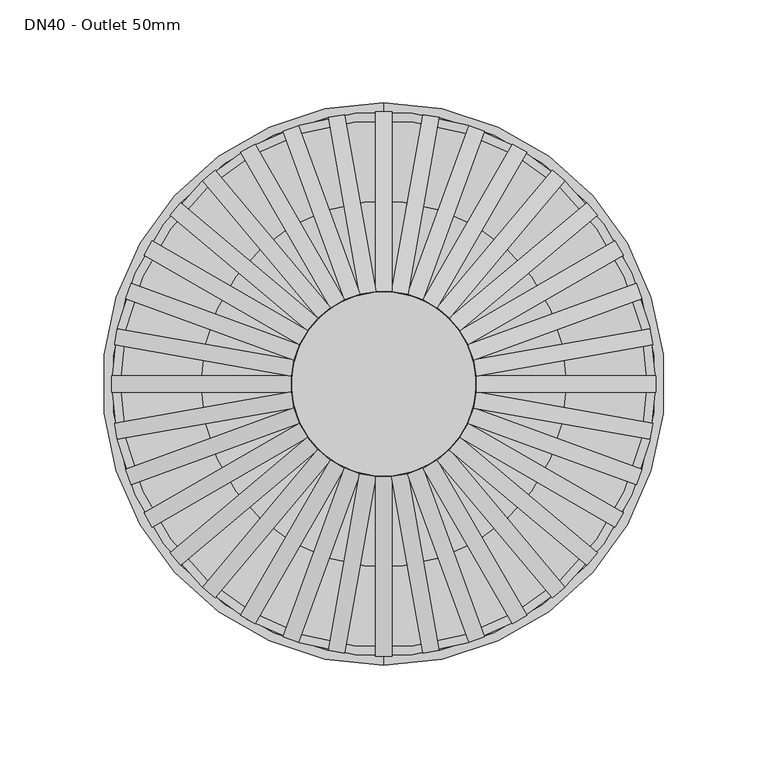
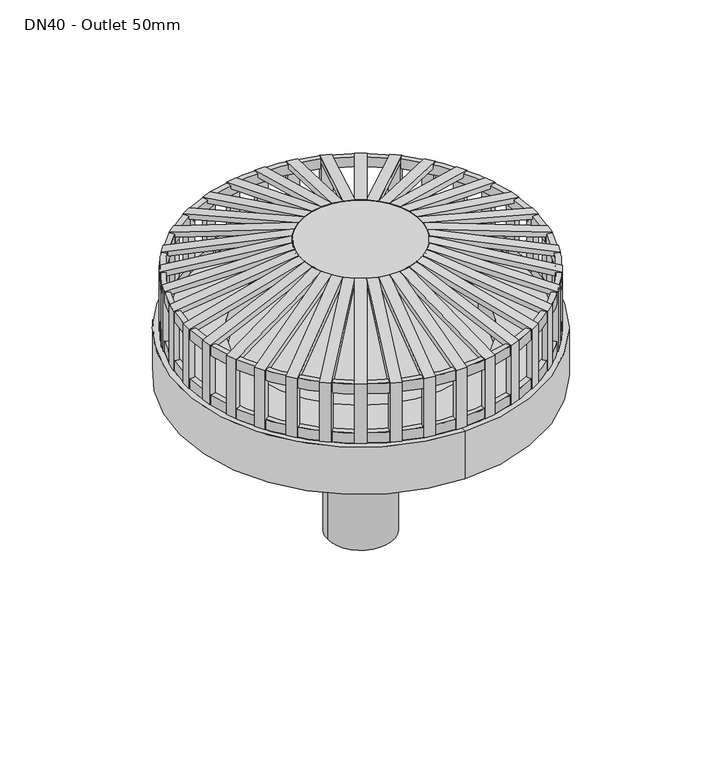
"""IFC4 building model written with IfcOpenShell, lengths in millimetres: sanitary terminal geometry, NLRS_52_PF_UN_Vacurain Flex flenstrechter_Dyka : DN40 - Outlet 50mm."""

from ifc_helpers import new_model, si_unit, point, frame, frame_2d, origin, origin_with_axes, origin_2d, place, context, project, spatial, polyline, circle_curve, trimmed, segment, composite_curve, outline, extrude, source, transform, mapped, element, save
from ifc_brep_helpers import plane_surface, cylinder_surface, revolved_surface, advanced_brep


def dn40_outlet_50mm_bcd54826(model_context):
    return source(origin(), model_context, "Body", "SolidModel", [
        extrude(outline(polyline([(0.0, -4.0), (0.0, 0.0), (44.2715057, 0.0), (67.1387468, 84.544377), (71.0, 83.4999999), (47.3333333, -4.0), (0.0, -4.0)])), frame((-122.1185823, 40.1908179, 0.0), z_axis=(0.3420201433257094, 0.9396926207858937, 0.0), x_axis=(0.0, 0.0, 1.0)), (0.0, 0.0, 1.0), 8.0),
        extrude(outline(polyline([(0.0, -4.0), (0.0, 0.0), (44.2715057, 0.0), (67.1387468, 84.5443771), (71.0, 83.5), (47.3333333, -4.0), (0.0, -4.0)])), frame((-113.2842644, 60.7858984, 0.0), z_axis=(0.5000000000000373, 0.8660254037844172, 0.0), x_axis=(0.0, 0.0, 1.0)), (0.0, 0.0, 1.0), 8.0),
        extrude(outline(polyline([(0.0, -4.0), (0.0, 0.0), (44.2715057, 0.0), (67.1387468, 84.5443771), (71.0, 83.5), (47.3333333, -4.0), (0.0, -4.0)])), frame((-101.0078614, 79.5340301, 0.0), z_axis=(0.6427876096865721, 0.7660444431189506, 0.0), x_axis=(0.0, 0.0, 1.0)), (0.0, 0.0, 1.0), 8.0),
        extrude(outline(polyline([(0.0, -4.0000001), (0.0, 0.0), (44.2715057, 0.0), (67.1387468, 84.544377), (71.0, 83.5), (47.3333333, -4.0000001), (0.0, -4.0000001)])), frame((-85.6623856, 95.8655605, 0.0), z_axis=(0.7660444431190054, 0.6427876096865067, 0.0), x_axis=(0.0, 0.0, 1.0)), (0.0, 0.0, 1.0), 8.0),
        extrude(outline(polyline([(0.0, -4.0), (0.0, 0.0), (44.2715057, 0.0), (67.1387468, 84.5443771), (71.0, 83.5), (47.3333333, -4.0), (0.0, -4.0)])), frame((-67.7141016, 109.2842644, 0.0), z_axis=(0.8660254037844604, 0.49999999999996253, 0.0), x_axis=(0.0, 0.0, 1.0)), (0.0, 0.0, 1.0), 8.0),
        extrude(outline(polyline([(0.0, -4.0), (0.0, 0.0), (44.2715057, 0.0), (67.1387468, 84.5443771), (71.0, 83.5), (47.3333333, -4.0), (0.0, -4.0)])), frame((-47.7083589, 119.3824212, 0.0), z_axis=(0.9396926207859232, 0.34202014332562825, 0.0), x_axis=(0.0, 0.0, 1.0)), (0.0, 0.0, 1.0), 8.0),
        extrude(outline(polyline([(0.0, -4.0), (0.0, 0.0), (44.2715057, 0.0), (67.1387468, 84.5443772), (71.0, 83.5), (47.3333333, -4.0), (0.0, -4.0)])), frame((-26.2530218, 125.8532036, 0.0), z_axis=(0.9848077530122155, 0.17364817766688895, 0.0), x_axis=(0.0, 0.0, 1.0)), (0.0, 0.0, 1.0), 8.0),
        extrude(outline(polyline([(132.5, 0.0), (128.5, 0.0), (128.5, 44.2715057), (43.9556229, 67.1387468), (45.0, 71.0), (132.5, 47.3333333), (132.5, 0.0)])), frame((-4.0, 0.0, 0.0), z_axis=(1.0, 0.0, 0.0), x_axis=(0.0, 1.0, 0.0)), (0.0, 0.0, 1.0), 8.0),
        extrude(outline(polyline([(0.0, -4.0), (0.0, 0.0), (47.3333333, 0.0), (71.0, -87.5), (67.1387468, -88.5443772), (44.2715057, -4.0), (0.0, -4.0)])), frame((26.9476146, 129.7924346, 0.0), z_axis=(-0.9848077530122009, 0.1736481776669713, 0.0), x_axis=(0.0, 0.0, 1.0)), (0.0, 0.0, 1.0), 8.0),
        extrude(outline(polyline([(0.0, -4.0), (0.0, 0.0), (47.3333333, 0.0), (71.0, -87.5), (67.1387468, -88.5443771), (44.2715057, -4.0), (0.0, -4.0)])), frame((49.0764395, 123.1411917, 0.0), z_axis=(-0.9396926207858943, 0.3420201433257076, 0.0), x_axis=(0.0, 0.0, 1.0)), (0.0, 0.0, 1.0), 8.0),
        extrude(outline(polyline([(0.0, -4.0), (0.0, 0.0), (47.3333333, 0.0), (71.0, -87.5), (67.1387468, -88.544377), (44.2715057, -4.0), (0.0, -4.0)])), frame((69.7141016, 112.748366, 0.0), z_axis=(-0.8660254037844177, 0.5000000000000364, 0.0), x_axis=(0.0, 0.0, 1.0)), (0.0, 0.0, 1.0), 8.0),
        extrude(outline(polyline([(0.0, -4.0000001), (0.0, 0.0), (47.3333333, 0.0), (71.0, -87.5000001), (67.1387468, -88.5443771), (44.2715057, -4.0000001), (0.0, -4.0000001)])), frame((88.2335361, 98.9297383, 0.0), z_axis=(-0.7660444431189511, 0.6427876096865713, 0.0), x_axis=(0.0, 0.0, 1.0)), (0.0, 0.0, 1.0), 8.0),
        extrude(outline(polyline([(0.0, -4.0), (0.0, 0.0), (47.3333333, 0.0), (71.0, -87.5), (67.1387468, -88.5443771), (44.2715057, -4.0), (0.0, -4.0)])), frame((104.0720392, 82.1051805, 0.0), z_axis=(-0.642787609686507, 0.7660444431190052, 0.0), x_axis=(0.0, 0.0, 1.0)), (0.0, 0.0, 1.0), 8.0),
        extrude(outline(polyline([(0.0, -4.0), (0.0, 0.0), (47.3333333, 0.0), (71.0, -87.5), (67.1387468, -88.544377), (44.2715057, -4.0), (0.0, -4.0)])), frame((116.748366, 62.7858984, 0.0), z_axis=(-0.4999999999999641, 0.8660254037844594, 0.0), x_axis=(0.0, 0.0, 1.0)), (0.0, 0.0, 1.0), 8.0),
        extrude(outline(polyline([(0.0, -4.0), (0.0, 0.0), (47.3333333, 0.0), (71.0, -87.5), (67.1387468, -88.544377), (44.2715057, -4.0), (0.0, -4.0)])), frame((125.8773528, 41.5588985, 0.0), z_axis=(-0.3420201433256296, 0.9396926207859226, 0.0), x_axis=(0.0, 0.0, 1.0)), (0.0, 0.0, 1.0), 8.0),
        extrude(outline(polyline([(0.0, -4.0), (0.0, 0.0), (47.3333333, 0.0), (71.0, -87.5), (67.1387468, -88.544377), (44.2715057, -4.0), (0.0, -4.0)])), frame((131.18162, 19.0691525, 0.0), z_axis=(-0.17364817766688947, 0.9848077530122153, 0.0), x_axis=(0.0, 0.0, 1.0)), (0.0, 0.0, 1.0), 8.0),
        extrude(outline(polyline([(0.0, 128.5), (0.0, 132.5), (47.3333333, 132.5), (71.0, 45.0), (67.1387468, 43.9556229), (44.2715057, 128.5), (0.0, 128.5)])), frame((0.0, -4.0, 0.0), z_axis=(0.0, 1.0, 0.0), x_axis=(0.0, 0.0, 1.0)), (0.0, 0.0, 1.0), 8.0),
        extrude(outline(polyline([(0.0, -4.0), (0.0, 0.0), (47.3333333, 0.0), (71.0, -87.5), (67.1387468, -88.5443772), (44.2715057, -4.0), (0.0, -4.0)])), frame((129.7924346, -26.9476146, 0.0), z_axis=(0.17364817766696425, 0.9848077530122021, 0.0), x_axis=(0.0, 0.0, 1.0)), (0.0, 0.0, 1.0), 8.0),
        extrude(outline(polyline([(0.0, -4.0), (0.0, 0.0), (47.3333333, 0.0), (71.0, -87.5), (67.1387468, -88.5443771), (44.2715057, -4.0), (0.0, -4.0)])), frame((123.1411917, -49.0764395, 0.0), z_axis=(0.3420201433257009, 0.9396926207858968, 0.0), x_axis=(0.0, 0.0, 1.0)), (0.0, 0.0, 1.0), 8.0),
        extrude(outline(polyline([(0.0, -4.0), (0.0, 0.0), (47.3333333, 0.0), (71.0, -87.5), (67.1387468, -88.544377), (44.2715057, -4.0), (0.0, -4.0)])), frame((112.748366, -69.7141016, 0.0), z_axis=(0.5000000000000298, 0.8660254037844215, 0.0), x_axis=(0.0, 0.0, 1.0)), (0.0, 0.0, 1.0), 8.0),
        extrude(outline(polyline([(0.0, -4.0000001), (0.0, 0.0), (47.3333333, 0.0), (71.0, -87.5000001), (67.1387468, -88.5443771), (44.2715057, -4.0000001), (0.0, -4.0000001)])), frame((98.9297383, -88.2335361, 0.0), z_axis=(0.6427876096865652, 0.7660444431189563, 0.0), x_axis=(0.0, 0.0, 1.0)), (0.0, 0.0, 1.0), 8.0),
        extrude(outline(polyline([(0.0, -4.0), (0.0, 0.0), (47.3333333, 0.0), (71.0, -87.5), (67.1387468, -88.5443771), (44.2715057, -4.0), (0.0, -4.0)])), frame((82.1051805, -104.0720392, 0.0), z_axis=(0.7660444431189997, 0.6427876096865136, 0.0), x_axis=(0.0, 0.0, 1.0)), (0.0, 0.0, 1.0), 8.0),
        extrude(outline(polyline([(0.0, -4.0), (0.0, 0.0), (47.3333333, 0.0), (71.0, -87.5), (67.1387468, -88.544377), (44.2715057, -4.0), (0.0, -4.0)])), frame((62.7858984, -116.748366, 0.0), z_axis=(0.8660254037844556, 0.49999999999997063, 0.0), x_axis=(0.0, 0.0, 1.0)), (0.0, 0.0, 1.0), 8.0),
        extrude(outline(polyline([(0.0, -4.0), (0.0, 0.0), (47.3333333, 0.0), (71.0, -87.5), (67.1387468, -88.544377), (44.2715057, -4.0), (0.0, -4.0)])), frame((41.5588985, -125.8773528, 0.0), z_axis=(0.93969262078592, 0.3420201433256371, 0.0), x_axis=(0.0, 0.0, 1.0)), (0.0, 0.0, 1.0), 8.0),
        extrude(outline(polyline([(0.0, -4.0), (0.0, 0.0), (47.3333333, 0.0), (71.0, -87.5), (67.1387468, -88.544377), (44.2715057, -4.0), (0.0, -4.0)])), frame((19.0691525, -131.18162, 0.0), z_axis=(0.9848077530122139, 0.1736481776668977, 0.0), x_axis=(0.0, 0.0, 1.0)), (0.0, 0.0, 1.0), 8.0),
        extrude(outline(polyline([(-128.5, 0.0), (-132.5, 0.0), (-132.5, 47.3333333), (-45.0, 71.0), (-43.9556229, 67.1387468), (-128.5, 44.2715057), (-128.5, 0.0)])), frame((-4.0, 0.0, 0.0), z_axis=(1.0, 0.0, 0.0), x_axis=(0.0, 1.0, 0.0)), (0.0, 0.0, 1.0), 8.0),
        extrude(outline(polyline([(0.0, -4.0), (0.0, 0.0), (44.2715057, 0.0), (67.1387468, 84.5443771), (71.0, 83.5), (47.3333333, -4.0), (0.0, -4.0)])), frame((-18.3745598, -127.242389, 0.0), z_axis=(-0.9848077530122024, 0.1736481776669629, 0.0), x_axis=(0.0, 0.0, 1.0)), (0.0, 0.0, 1.0), 8.0),
        extrude(outline(polyline([(0.0, -4.0), (0.0, 0.0), (44.2715057, 0.0), (67.1387468, 84.544377), (71.0, 83.4999999), (47.3333333, -4.0), (0.0, -4.0)])), frame((-40.1908179, -122.1185823, 0.0), z_axis=(-0.9396926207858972, 0.3420201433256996, 0.0), x_axis=(0.0, 0.0, 1.0)), (0.0, 0.0, 1.0), 8.0),
        extrude(outline(polyline([(0.0, -4.0), (0.0, 0.0), (44.2715057, 0.0), (67.1387468, 84.5443771), (71.0, 83.5), (47.3333333, -4.0), (0.0, -4.0)])), frame((-60.7858984, -113.2842644, 0.0), z_axis=(-0.8660254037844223, 0.5000000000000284, 0.0), x_axis=(0.0, 0.0, 1.0)), (0.0, 0.0, 1.0), 8.0),
        extrude(outline(polyline([(0.0, -4.0), (0.0, 0.0), (44.2715057, 0.0), (67.1387468, 84.5443771), (71.0, 83.5), (47.3333333, -4.0), (0.0, -4.0)])), frame((-79.5340301, -101.0078614, 0.0), z_axis=(-0.7660444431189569, 0.6427876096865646, 0.0), x_axis=(0.0, 0.0, 1.0)), (0.0, 0.0, 1.0), 8.0),
        extrude(outline(polyline([(0.0, -4.0000001), (0.0, 0.0), (44.2715057, 0.0), (67.1387468, 84.544377), (71.0, 83.5), (47.3333333, -4.0000001), (0.0, -4.0000001)])), frame((-95.8655605, -85.6623856, 0.0), z_axis=(-0.6427876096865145, 0.7660444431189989, 0.0), x_axis=(0.0, 0.0, 1.0)), (0.0, 0.0, 1.0), 8.0),
        extrude(outline(polyline([(0.0, -4.0), (0.0, 0.0), (44.2715057, 0.0), (67.1387468, 84.5443771), (71.0, 83.5), (47.3333333, -4.0), (0.0, -4.0)])), frame((-109.2842644, -67.7141016, 0.0), z_axis=(-0.499999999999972, 0.8660254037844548, 0.0), x_axis=(0.0, 0.0, 1.0)), (0.0, 0.0, 1.0), 8.0),
        extrude(outline(polyline([(0.0, -4.0), (0.0, 0.0), (44.2715057, 0.0), (67.1387468, 84.5443771), (71.0, 83.5), (47.3333333, -4.0), (0.0, -4.0)])), frame((-119.3824212, -47.7083589, 0.0), z_axis=(-0.34202014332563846, 0.9396926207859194, 0.0), x_axis=(0.0, 0.0, 1.0)), (0.0, 0.0, 1.0), 8.0),
        extrude(outline(polyline([(0.0, -4.0), (0.0, 0.0), (44.2715057, 0.0), (67.1387468, 84.5443772), (71.0, 83.5), (47.3333333, -4.0), (0.0, -4.0)])), frame((-125.8532036, -26.2530218, 0.0), z_axis=(-0.1736481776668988, 0.9848077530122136, 0.0), x_axis=(0.0, 0.0, 1.0)), (0.0, 0.0, 1.0), 8.0),
        extrude(outline(polyline([(0.0, -4.0), (0.0, 0.0), (44.2715057, 0.0), (67.1387468, 84.5443771), (71.0, 83.5), (47.3333333, -4.0), (0.0, -4.0)])), frame((-127.242389, 18.3745598, 0.0), z_axis=(0.17364817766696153, 0.9848077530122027, 0.0), x_axis=(0.0, 0.0, 1.0)), (0.0, 0.0, 1.0), 8.0),
        extrude(outline(polyline([(0.0, -132.5), (0.0, -128.5), (44.2715057, -128.5), (67.1387468, -43.9556229), (71.0, -45.0), (47.3333333, -132.5), (0.0, -132.5)])), frame((0.0, -4.0, 0.0), z_axis=(0.0, 1.0, 0.0), x_axis=(0.0, 0.0, 1.0)), (0.0, 0.0, 1.0), 8.0),
        extrude(outline(composite_curve([segment(trimmed(circle_curve(origin_2d(), 45.0), [point((-45.0, 0.0))], [point((45.0, 0.0))], False, "CARTESIAN"), True, "CONTINUOUS"), segment(trimmed(circle_curve(origin_2d(), 45.0), [point((45.0, 0.0))], [point((-45.0, 0.0))], False, "CARTESIAN"), True, "CONTINUOUS")], self_intersect=False)), frame((0.0, 0.0, 63.0), z_axis=(0.0, 0.0, 1.0), x_axis=(1.0, 0.0, 0.0)), (0.0, 0.0, 1.0), 8.0),
        advanced_brep(
        [(-132.5, 0.0, 0.0), (132.5, 0.0, 0.0), (128.5, 0.0, 0.0), (-128.5, 0.0, 0.0), (-132.5, 0.0, 8.0), (132.5, 0.0, 8.0), (-128.5, 0.0, 8.0), (128.5, 0.0, 8.0)],
        [
            (0, 1, circle_curve(frame((0.0, 0.0, 0.0), z_axis=(0.0, 0.0, -1.0), x_axis=(1.0, 0.0, 0.0)), 132.5)),
            (1, 2),
            (2, 3, circle_curve(origin_with_axes(), 128.5)),
            (3, 0),
            (1, 0, circle_curve(frame((0.0, 0.0, 0.0), z_axis=(0.0, 0.0, -1.0), x_axis=(1.0, 0.0, 0.0)), 132.5)),
            (3, 2, circle_curve(origin_with_axes(), 128.5)),
            (4, 5, circle_curve(frame((0.0, 0.0, 8.0), z_axis=(0.0, 0.0, -1.0), x_axis=(1.0, 0.0, 0.0)), 132.5)),
            (5, 1),
            (0, 4),
            (5, 4, circle_curve(frame((0.0, 0.0, 8.0), z_axis=(0.0, 0.0, -1.0), x_axis=(1.0, 0.0, 0.0)), 132.5)),
            (6, 7, circle_curve(frame((0.0, 0.0, 8.0), z_axis=(0.0, 0.0, -1.0), x_axis=(1.0, 0.0, 0.0)), 128.5)),
            (7, 5),
            (4, 6),
            (7, 6, circle_curve(frame((0.0, 0.0, 8.0), z_axis=(0.0, 0.0, -1.0), x_axis=(1.0, 0.0, 0.0)), 128.5)),
            (2, 7),
            (6, 3),
        ],
        [
            plane_surface(frame((0.0, 0.0, 0.0), z_axis=(0.0, 0.0, -1.0), x_axis=(1.0, 0.0, 0.0))),
            cylinder_surface(frame((0.0, 0.0, 2214.3150031), z_axis=(0.0, 0.0, 1.0), x_axis=(1.0, 0.0, 0.0)), 132.5),
            plane_surface(frame((0.0, 0.0, 8.0), z_axis=(0.0, 0.0, 1.0), x_axis=(1.0, 0.0, 0.0))),
            revolved_surface(polyline([(128.5, 0.0, 8.0), (128.5, 0.0, 0.0)]), (0.0, 0.0, 2214.3150031), (0.0, 0.0, 1.0)),
        ],
        [
            (0, [[1, 2, 3, 4]]),
            (0, [[5, -4, 6, -2]]),
            (1, [[7, 8, -1, 9]]),
            (1, [[10, -9, -5, -8]]),
            (2, [[11, 12, -7, 13]]),
            (2, [[14, -13, -10, -12]]),
            (3, [[-3, 15, -11, 16]]),
            (3, [[-6, -16, -14, -15]]),
        ],
    ),
        advanced_brep(
        [(-132.5, 0.0, 39.3333333), (132.5, 0.0, 39.3333333), (128.5, 0.0, 39.3333333), (-128.5, 0.0, 39.3333333), (-132.5, 0.0, 47.3333333), (132.5, 0.0, 47.3333333), (-128.5, 0.0, 47.3333333), (128.5, 0.0, 47.3333333)],
        [
            (0, 1, circle_curve(frame((0.0, 0.0, 39.3333333), z_axis=(0.0, 0.0, -1.0), x_axis=(1.0, 0.0, 0.0)), 132.5)),
            (1, 2),
            (2, 3, circle_curve(frame((0.0, 0.0, 39.3333333), z_axis=(0.0, 0.0, 1.0), x_axis=(1.0, 0.0, 0.0)), 128.5)),
            (3, 0),
            (1, 0, circle_curve(frame((0.0, 0.0, 39.3333333), z_axis=(0.0, 0.0, -1.0), x_axis=(1.0, 0.0, 0.0)), 132.5)),
            (3, 2, circle_curve(frame((0.0, 0.0, 39.3333333), z_axis=(0.0, 0.0, 1.0), x_axis=(1.0, 0.0, 0.0)), 128.5)),
            (4, 5, circle_curve(frame((0.0, 0.0, 47.3333333), z_axis=(0.0, 0.0, -1.0), x_axis=(1.0, 0.0, 0.0)), 132.5)),
            (5, 1),
            (0, 4),
            (5, 4, circle_curve(frame((0.0, 0.0, 47.3333333), z_axis=(0.0, 0.0, -1.0), x_axis=(1.0, 0.0, 0.0)), 132.5)),
            (6, 7, circle_curve(frame((0.0, 0.0, 47.3333333), z_axis=(0.0, 0.0, -1.0), x_axis=(1.0, 0.0, 0.0)), 128.5)),
            (7, 5),
            (4, 6),
            (7, 6, circle_curve(frame((0.0, 0.0, 47.3333333), z_axis=(0.0, 0.0, -1.0), x_axis=(1.0, 0.0, 0.0)), 128.5)),
            (2, 7),
            (6, 3),
        ],
        [
            plane_surface(frame((0.0, 0.0, 39.3333333), z_axis=(0.0, 0.0, -1.0), x_axis=(1.0, 0.0, 0.0))),
            cylinder_surface(frame((0.0, 0.0, 2214.3150031), z_axis=(0.0, 0.0, 1.0), x_axis=(1.0, 0.0, 0.0)), 132.5),
            plane_surface(frame((0.0, 0.0, 47.3333333), z_axis=(0.0, 0.0, 1.0), x_axis=(1.0, 0.0, 0.0))),
            revolved_surface(polyline([(128.5, 0.0, 47.33333330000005), (128.5, 0.0, 39.33333330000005)]), (0.0, 0.0, 2214.3150031), (0.0, 0.0, 1.0)),
        ],
        [
            (0, [[1, 2, 3, 4]]),
            (0, [[5, -4, 6, -2]]),
            (1, [[7, 8, -1, 9]]),
            (1, [[10, -9, -5, -8]]),
            (2, [[11, 12, -7, 13]]),
            (2, [[14, -13, -10, -12]]),
            (3, [[-3, 15, -11, 16]]),
            (3, [[-6, -16, -14, -15]]),
        ],
    ),
        extrude(outline(composite_curve([segment(trimmed(circle_curve(origin_2d(), 132.5), [point((-132.5, 0.0))], [point((132.5, 0.0))], False, "CARTESIAN"), True, "CONTINUOUS"), segment(trimmed(circle_curve(origin_2d(), 132.5), [point((132.5, 0.0))], [point((-132.5, 0.0))], False, "CARTESIAN"), True, "CONTINUOUS")], self_intersect=False), holes=[composite_curve([segment(trimmed(circle_curve(origin_2d(), 89.0), [point((-89.0, 0.0))], [point((89.0, 0.0))], True, "CARTESIAN"), True, "CONTINUOUS"), segment(trimmed(circle_curve(origin_2d(), 89.0), [point((89.0, 0.0))], [point((-89.0, 0.0))], True, "CARTESIAN"), True, "CONTINUOUS")], self_intersect=False)]), frame((0.0, 0.0, -23.0), z_axis=(0.0, 0.0, 1.0), x_axis=(1.0, 0.0, 0.0)), (0.0, 0.0, 1.0), 23.0),
        advanced_brep(
        [(0.0, 137.0, 0.0), (0.0, -137.0, 0.0), (0.0, -132.5, 0.0), (0.0, 132.5, 0.0), (0.0, 93.25, -38.0), (0.0, -93.25, -38.0), (0.0, -137.0, -38.0), (0.0, 137.0, -38.0), (0.0, 25.0, -64.0), (0.0, -25.0, -64.0), (0.0, 0.0, -64.0), (0.0, -132.5, -23.0), (0.0, 132.5, -23.0)],
        [
            (0, 1, circle_curve(frame((0.0, 0.0, 0.0), z_axis=(0.0, 0.0, 1.0), x_axis=(0.0, -1.0, 0.0)), 137.0)),
            (1, 2),
            (2, 3, circle_curve(frame((0.0, 0.0, 0.0), z_axis=(0.0, 0.0, -1.0), x_axis=(0.0, 1.0, 0.0)), 132.5)),
            (3, 0),
            (1, 0, circle_curve(frame((0.0, 0.0, 0.0), z_axis=(0.0, 0.0, 1.0), x_axis=(0.0, -1.0, 0.0)), 137.0)),
            (3, 2, circle_curve(frame((0.0, 0.0, 0.0), z_axis=(0.0, 0.0, -1.0), x_axis=(0.0, 1.0, 0.0)), 132.5)),
            (4, 5, circle_curve(frame((0.0, 0.0, -38.0), z_axis=(0.0, 0.0, 1.0), x_axis=(0.0, -1.0, 0.0)), 93.25)),
            (5, 6),
            (6, 7, circle_curve(frame((0.0, 0.0, -38.0), z_axis=(0.0, 0.0, -1.0), x_axis=(0.0, -1.0, 0.0)), 137.0)),
            (7, 4),
            (5, 4, circle_curve(frame((0.0, 0.0, -38.0), z_axis=(0.0, 0.0, 1.0), x_axis=(0.0, -1.0, 0.0)), 93.25)),
            (7, 6, circle_curve(frame((0.0, 0.0, -38.0), z_axis=(0.0, 0.0, -1.0), x_axis=(0.0, -1.0, 0.0)), 137.0)),
            (4, 8),
            (8, 9, circle_curve(frame((0.0, 0.0, -64.0), z_axis=(0.0, 0.0, 1.0), x_axis=(0.0, -1.0, 0.0)), 25.0)),
            (9, 5),
            (9, 8, circle_curve(frame((0.0, 0.0, -64.0), z_axis=(0.0, 0.0, 1.0), x_axis=(0.0, -1.0, 0.0)), 25.0)),
            (0, 7),
            (6, 1),
            (8, 10),
            (10, 9),
            (11, 12, circle_curve(frame((0.0, 0.0, -23.0), z_axis=(0.0, 0.0, 1.0), x_axis=(0.0, 1.0, 0.0)), 132.5)),
            (12, 11, circle_curve(frame((0.0, 0.0, -23.0), z_axis=(0.0, 0.0, 1.0), x_axis=(0.0, 1.0, 0.0)), 132.5)),
            (11, 2),
            (3, 12),
        ],
        [
            plane_surface(frame((0.0, 0.0, 0.0), z_axis=(0.0, 0.0, 1.0), x_axis=(0.0, -1.0, 0.0))),
            plane_surface(frame((0.0, 0.0, -38.0), z_axis=(0.0, 0.0, -1.0), x_axis=(0.0, -1.0, 0.0))),
            revolved_surface(polyline([(0.0, -93.25, -38.0), (0.0, -25.0, -64.0)]), (0.0, 0.0, 2214.3150031), (0.0, 0.0, -1.0)),
            cylinder_surface(frame((0.0, 0.0, 2214.3150031), z_axis=(0.0, 0.0, -1.0), x_axis=(0.0, -1.0, 0.0)), 137.0),
            plane_surface(frame((0.0, 0.0, -64.0), z_axis=(0.0, 0.0, -1.0), x_axis=(0.0, -1.0, 0.0))),
            plane_surface(frame((0.0, 132.5, -23.0), z_axis=(0.0, 0.0, 1.0), x_axis=(1.0, 0.0, 0.0))),
            revolved_surface(polyline([(0.0, 132.5, 0.0), (0.0, 132.5, -23.0)]), (0.0, 0.0, -23.0), (0.0, 0.0, 1.0)),
        ],
        [
            (0, [[1, 2, 3, 4]]),
            (0, [[5, -4, 6, -2]]),
            (1, [[7, 8, 9, 10]]),
            (1, [[-8, 11, -10, 12]]),
            (2, [[-7, 13, 14, 15]]),
            (2, [[-11, -15, 16, -13]]),
            (3, [[-1, 17, -9, 18]]),
            (3, [[-5, -18, -12, -17]]),
            (4, [[-14, 19, 20]]),
            (4, [[-16, -20, -19]]),
            (5, [[21, 22]]),
            (6, [[-21, 23, -6, 24]]),
            (6, [[-22, -24, -3, -23]]),
        ],
    ),
        extrude(outline(composite_curve([segment(trimmed(circle_curve(origin_2d(), 25.0), [point((-25.0, 0.0))], [point((25.0, 0.0))], False, "CARTESIAN"), True, "CONTINUOUS"), segment(trimmed(circle_curve(origin_2d(), 25.0), [point((25.0, 0.0))], [point((-25.0, 0.0))], False, "CARTESIAN"), True, "CONTINUOUS")], self_intersect=False)), frame((0.0, 0.0, -161.0), z_axis=(0.0, 0.0, 1.0), x_axis=(1.0, 0.0, 0.0)), (0.0, 0.0, 1.0), 97.0),
        extrude(outline(composite_curve([segment(trimmed(circle_curve(frame_2d((-41.7124941, -100.702869)), 4.0), [point((-41.7124941, -104.702869))], [point((-41.7124941, -96.702869))], False, "CARTESIAN"), True, "CONTINUOUS"), segment(trimmed(circle_curve(frame_2d((-41.7124941, -100.702869)), 4.0), [point((-41.7124941, -96.702869))], [point((-41.7124941, -104.702869))], False, "CARTESIAN"), True, "CONTINUOUS")], self_intersect=False)), frame((0.0, 0.0, -24.0), z_axis=(0.0, 0.0, 1.0), x_axis=(1.0, 0.0, 0.0)), (0.0, 0.0, 1.0), 20.0),
        extrude(outline(composite_curve([segment(trimmed(circle_curve(frame_2d((41.7124941, -100.702869)), 4.0), [point((41.7124941, -104.702869))], [point((41.7124941, -96.702869))], False, "CARTESIAN"), True, "CONTINUOUS"), segment(trimmed(circle_curve(frame_2d((41.7124941, -100.702869)), 4.0), [point((41.7124941, -96.702869))], [point((41.7124941, -104.702869))], False, "CARTESIAN"), True, "CONTINUOUS")], self_intersect=False)), frame((0.0, 0.0, -24.0), z_axis=(0.0, 0.0, 1.0), x_axis=(1.0, 0.0, 0.0)), (0.0, 0.0, 1.0), 20.0),
        extrude(outline(composite_curve([segment(trimmed(circle_curve(frame_2d((-41.7124941, 100.702869)), 4.0), [point((-41.7124941, 96.702869))], [point((-41.7124941, 104.702869))], False, "CARTESIAN"), True, "CONTINUOUS"), segment(trimmed(circle_curve(frame_2d((-41.7124941, 100.702869)), 4.0), [point((-41.7124941, 104.702869))], [point((-41.7124941, 96.702869))], False, "CARTESIAN"), True, "CONTINUOUS")], self_intersect=False)), frame((0.0, 0.0, -24.0), z_axis=(0.0, 0.0, 1.0), x_axis=(1.0, 0.0, 0.0)), (0.0, 0.0, 1.0), 20.0),
        extrude(outline(composite_curve([segment(trimmed(circle_curve(frame_2d((41.7124941, 100.702869)), 4.0), [point((41.7124941, 96.702869))], [point((41.7124941, 104.702869))], False, "CARTESIAN"), True, "CONTINUOUS"), segment(trimmed(circle_curve(frame_2d((41.7124941, 100.702869)), 4.0), [point((41.7124941, 104.702869))], [point((41.7124941, 96.702869))], False, "CARTESIAN"), True, "CONTINUOUS")], self_intersect=False)), frame((0.0, 0.0, -24.0), z_axis=(0.0, 0.0, 1.0), x_axis=(1.0, 0.0, 0.0)), (0.0, 0.0, 1.0), 20.0),
        extrude(outline(composite_curve([segment(trimmed(circle_curve(frame_2d((100.702869, -41.7124941)), 4.0), [point((100.702869, -45.7124941))], [point((100.702869, -37.7124941))], False, "CARTESIAN"), True, "CONTINUOUS"), segment(trimmed(circle_curve(frame_2d((100.702869, -41.7124941)), 4.0), [point((100.702869, -37.7124941))], [point((100.702869, -45.7124941))], False, "CARTESIAN"), True, "CONTINUOUS")], self_intersect=False)), frame((0.0, 0.0, -24.0), z_axis=(0.0, 0.0, 1.0), x_axis=(1.0, 0.0, 0.0)), (0.0, 0.0, 1.0), 20.0),
        extrude(outline(composite_curve([segment(trimmed(circle_curve(frame_2d((100.702869, 41.7124941)), 4.0), [point((100.702869, 37.7124941))], [point((100.702869, 45.7124941))], False, "CARTESIAN"), True, "CONTINUOUS"), segment(trimmed(circle_curve(frame_2d((100.702869, 41.7124941)), 4.0), [point((100.702869, 45.7124941))], [point((100.702869, 37.7124941))], False, "CARTESIAN"), True, "CONTINUOUS")], self_intersect=False)), frame((0.0, 0.0, -24.0), z_axis=(0.0, 0.0, 1.0), x_axis=(1.0, 0.0, 0.0)), (0.0, 0.0, 1.0), 20.0),
        extrude(outline(composite_curve([segment(trimmed(circle_curve(frame_2d((-100.702869, -41.7124941)), 4.0), [point((-100.702869, -45.7124941))], [point((-100.702869, -37.7124941))], False, "CARTESIAN"), True, "CONTINUOUS"), segment(trimmed(circle_curve(frame_2d((-100.702869, -41.7124941)), 4.0), [point((-100.702869, -37.7124941))], [point((-100.702869, -45.7124941))], False, "CARTESIAN"), True, "CONTINUOUS")], self_intersect=False)), frame((0.0, 0.0, -24.0), z_axis=(0.0, 0.0, 1.0), x_axis=(1.0, 0.0, 0.0)), (0.0, 0.0, 1.0), 20.0),
        extrude(outline(composite_curve([segment(trimmed(circle_curve(frame_2d((-100.702869, 41.7124941)), 4.0), [point((-100.702869, 37.7124941))], [point((-100.702869, 45.7124941))], False, "CARTESIAN"), True, "CONTINUOUS"), segment(trimmed(circle_curve(frame_2d((-100.702869, 41.7124941)), 4.0), [point((-100.702869, 45.7124941))], [point((-100.702869, 37.7124941))], False, "CARTESIAN"), True, "CONTINUOUS")], self_intersect=False)), frame((0.0, 0.0, -24.0), z_axis=(0.0, 0.0, 1.0), x_axis=(1.0, 0.0, 0.0)), (0.0, 0.0, 1.0), 20.0),
    ])


if __name__ == "__main__":
    model = new_model("IFC4")
    model_context = context("Model", 3, world=origin())
    ifc_project = project(units=[si_unit("LENGTHUNIT", "METRE", prefix="MILLI")], contexts=[model_context])
    site = spatial("IfcSite", under=ifc_project)
    building = spatial("IfcBuilding", under=site)
    placement = place(None, origin())
    dn40_outlet_50mm_shape = dn40_outlet_50mm_bcd54826(model_context)
    element("IfcSanitaryTerminal", 1, ObjectType="NLRS_52_PF_UN_Vacurain Flex flenstrechter_Dyka : DN40 - Outlet 50mm", at=placement, inside=building, context=model_context, shape_type="MappedRepresentation", body=[
        mapped(dn40_outlet_50mm_shape, transform((0.0, 0.0, 0.0), x_axis=(1.0, 0.0, 0.0), y_axis=(0.0, 1.0, 0.0), z_axis=(0.0, 0.0, 1.0))),
    ])
    save(model, "model.ifc")
